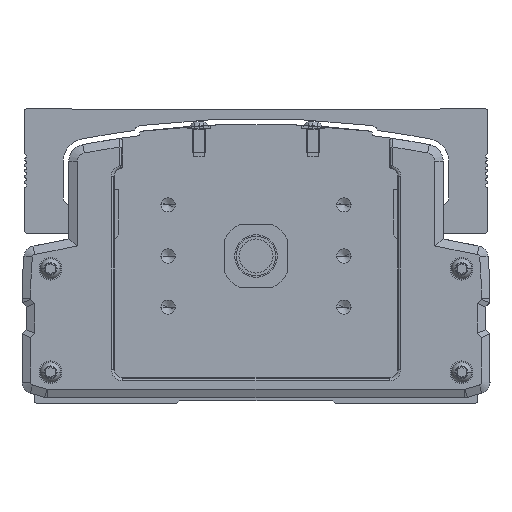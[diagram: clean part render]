
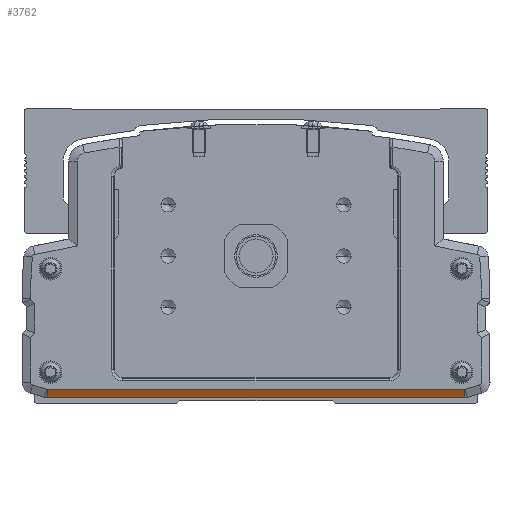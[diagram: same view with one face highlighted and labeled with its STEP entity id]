
A CAD part, front view. The second image highlights one B-rep face of the part: STEP entity #3762.
In plain terms, the highlighted planar face has unit normal (0, -0.894, -0.447).
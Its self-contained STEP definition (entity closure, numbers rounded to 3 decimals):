
#3762=ADVANCED_FACE('',(#8818),#8819,.F.);
#8818=FACE_OUTER_BOUND('',#15867,.T.);
#8819=PLANE('',#15868);
#15867=EDGE_LOOP('',(#28334,#28335,#28336,#28337));
#15868=AXIS2_PLACEMENT_3D('',#28338,#28339,#28340);
#28334=ORIENTED_EDGE('',*,*,#43517,.T.);
#28335=ORIENTED_EDGE('',*,*,#44083,.F.);
#28336=ORIENTED_EDGE('',*,*,#41523,.F.);
#28337=ORIENTED_EDGE('',*,*,#40235,.F.);
#28338=CARTESIAN_POINT('',(-599.999,-186.278,-50.001));
#28339=DIRECTION('',(0.,0.894,0.447));
#28340=DIRECTION('',(0.,0.447,-0.894));
#40235=EDGE_CURVE('',#47772,#47774,#47775,.T.);
#41523=EDGE_CURVE('',#47774,#50092,#50093,.T.);
#43517=EDGE_CURVE('',#47772,#53311,#53313,.T.);
#44083=EDGE_CURVE('',#50092,#53311,#54154,.T.);
#47772=VERTEX_POINT('',#58817);
#47774=VERTEX_POINT('',#58819);
#47775=LINE('',#58820,#58821);
#50092=VERTEX_POINT('',#62301);
#50093=LINE('',#62302,#62303);
#53311=VERTEX_POINT('',#67111);
#53313=LINE('',#67113,#67114);
#54154=LINE('',#68440,#68441);
#58817=CARTESIAN_POINT('',(-673.423,-187.778,-47.001));
#58819=CARTESIAN_POINT('',(-526.575,-187.778,-47.001));
#58820=CARTESIAN_POINT('',(-600.015,-187.778,-47.001));
#58821=VECTOR('',#75232,1000.0);
#62301=CARTESIAN_POINT('',(-526.575,-186.278,-50.001));
#62302=CARTESIAN_POINT('',(-526.575,-187.778,-47.001));
#62303=VECTOR('',#77060,1000.0);
#67111=CARTESIAN_POINT('',(-673.423,-186.278,-50.001));
#67113=CARTESIAN_POINT('',(-673.423,-187.778,-47.001));
#67114=VECTOR('',#79582,1000.0);
#68440=CARTESIAN_POINT('',(-599.999,-186.278,-50.001));
#68441=VECTOR('',#80184,1000.0);
#75232=DIRECTION('',(1.0,0.,0.));
#77060=DIRECTION('',(0.,0.447,-0.894));
#79582=DIRECTION('',(0.,0.447,-0.894));
#80184=DIRECTION('',(-1.0,0.,0.));
